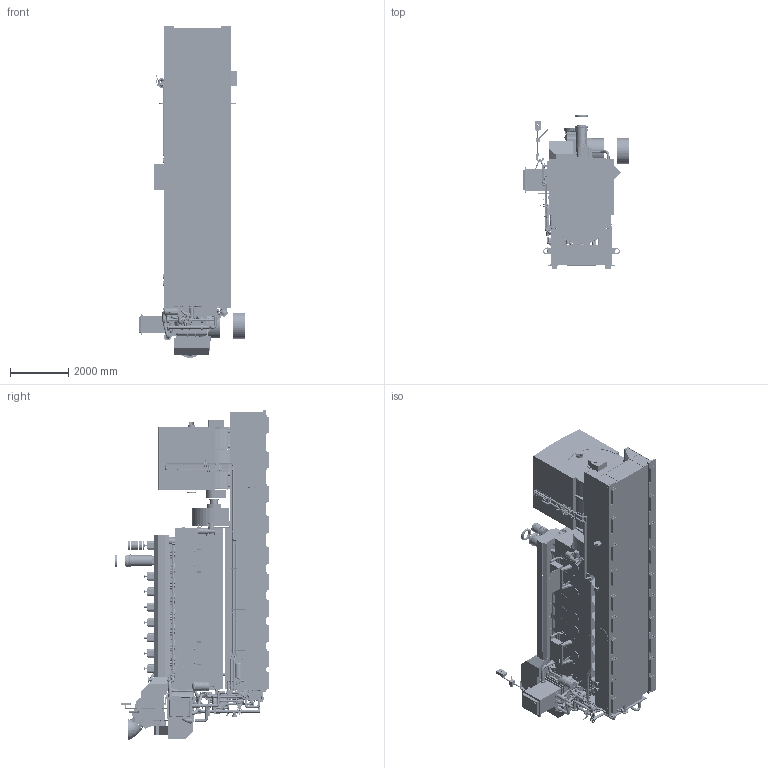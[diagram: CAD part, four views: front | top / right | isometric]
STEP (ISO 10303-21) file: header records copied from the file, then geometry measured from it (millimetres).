
FILE_DESCRIPTION((''),'2;1');
FILE_NAME('9M32E_GENSET_STP_ASM','2015-11-17T',('petera8'),('Caterpillar Motoren GmbH & Co.KG'),'PRO/ENGINEER BY PARAMETRIC TECHNOLOGY CORPORATION, 2014200','PRO/ENGINEER BY PARAMETRIC TECHNOLOGY CORPORATION, 2014200','');
FILE_SCHEMA(('CONFIG_CONTROL_DESIGN'));
Products named in the file (7): 9M32E_GENSET_STP_ENGINE_P01; 9M32E_GENSET_STP_COMPLETE_P01; 9M32E_GENSET_STP_WITH_GEN_P01; 9M32E_GENSET_STP_STD_P01; 9M32E_GENSET_STP_RESIL_MO_P01; 9M32E_GENSET_STP_REM_SPAC_P01; 9M32E_GENSET_STP_ASM
Assembly tree (6 placements, depth 2):
  9M32E_GENSET_STP_ASM
    9M32E_GENSET_STP_ENGINE_P01
    9M32E_GENSET_STP_COMPLETE_P01
    9M32E_GENSET_STP_WITH_GEN_P01
    9M32E_GENSET_STP_STD_P01
    9M32E_GENSET_STP_RESIL_MO_P01
    9M32E_GENSET_STP_REM_SPAC_P01
Bounding box: 3655 x 5305 x 11419.48 mm (x, y, z)
Surface area: 528001079.4 mm2 (no closed solid volume)
Topology: 0 solids, 1783 shells, 6937 faces, 36040 edges, 29933 vertices
Faces by surface type: plane 3687, cylinder 2390, torus 428, bspline 209, cone 117, extrusion 67, revolution 29, sphere 10
Entity records: 456836 total; most frequent: CARTESIAN_POINT 144445, DIRECTION 61151, ORIENTED_EDGE 46080, EDGE_CURVE 36003, VERTEX_POINT 29933, AXIS2_PLACEMENT_3D 21377, VECTOR 18368, LINE 18301
